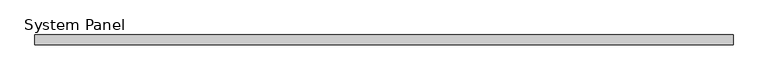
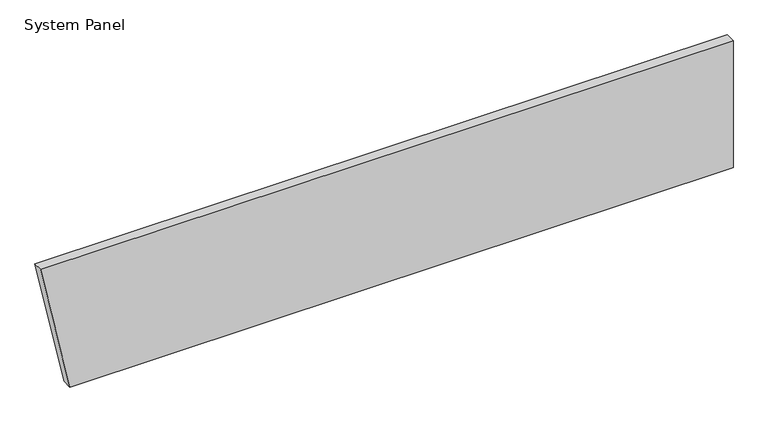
"""IFC4 building model written with IfcOpenShell, lengths in millimetres: plate geometry, System Panel : Inspire 80mm Horizontal - Plain RHEA-PIR."""

from ifc_helpers import new_model, si_unit, frame, origin, place, context, project, spatial, polyline, outline, extrude, source, transform, mapped, element, save


def system_panel_3cb8534e(model_context):
    return source(origin(), model_context, "Body", "SweptSolid", [
        extrude(outline(polyline([(0.0, -2590.0), (0.0, 2829.1323567), (1100.0, 2829.1323567), (1100.0, -2829.1323567), (0.0, -2590.0)])), frame((0.0, -80.0, 0.0), z_axis=(0.0, 1.0, 0.0), x_axis=(0.0, 0.0, 1.0)), (0.0, 0.0, 1.0), 80.0),
    ])


if __name__ == "__main__":
    model = new_model("IFC4")
    model_context = context("Model", 3, world=origin())
    ifc_project = project(units=[si_unit("LENGTHUNIT", "METRE", prefix="MILLI")], contexts=[model_context])
    site = spatial("IfcSite", under=ifc_project)
    building = spatial("IfcBuilding", under=site)
    placement = place(None, origin())
    system_panel_shape = system_panel_3cb8534e(model_context)
    element("IfcPlate", 1, ObjectType="System Panel : Inspire 80mm Horizontal - Plain RHEA-PIR", at=placement, inside=building, context=model_context, shape_type="MappedRepresentation", body=[
        mapped(system_panel_shape, transform((0.0, 0.0, 0.0), x_axis=(1.0, 0.0, 0.0), y_axis=(0.0, 1.0, 0.0), z_axis=(0.0, 0.0, 1.0))),
    ])
    save(model, "model.ifc")
